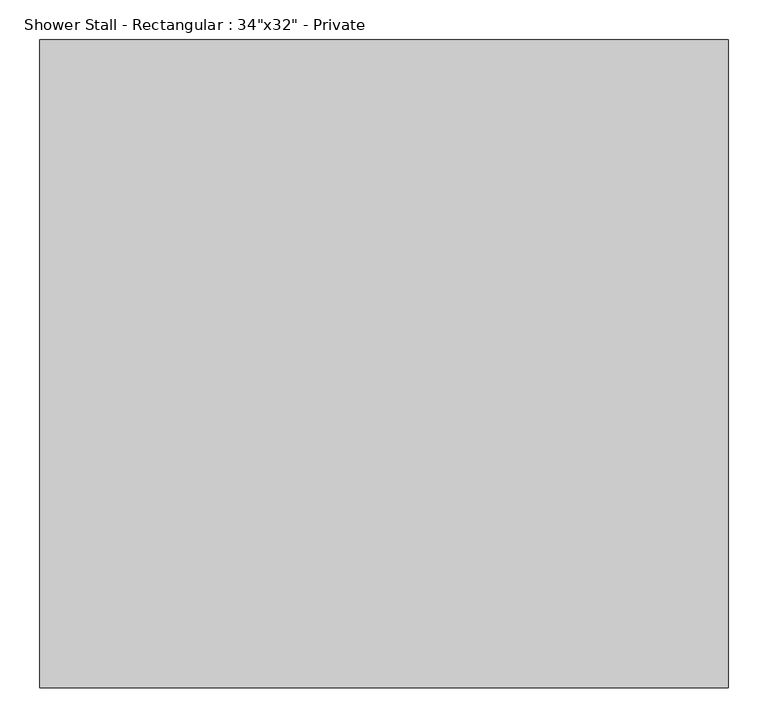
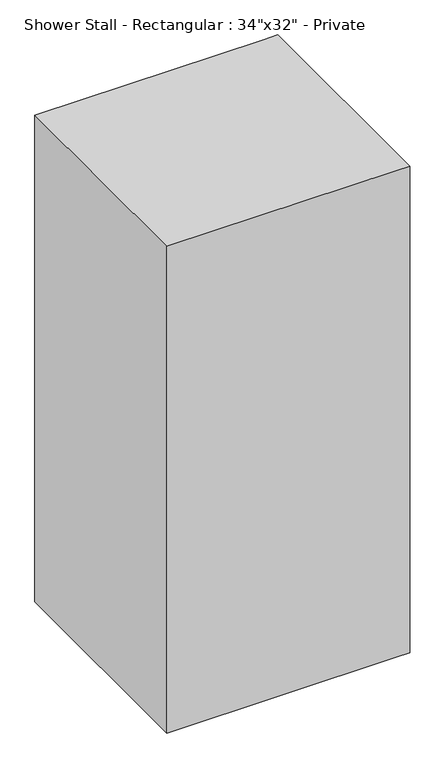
"""IFC4 building model written with IfcOpenShell, lengths in millimetres: flow terminal geometry."""

from ifc_helpers import new_model, si_unit, point, frame, frame_2d, origin, origin_with_axes, place, context, project, spatial, polyline, circle_curve, trimmed, segment, composite_curve, outline, extrude, faceted_brep, source, transform, mapped, element, save


def flow_terminal_b3365f74(model_context):
    return source(origin(), model_context, "Body", "SolidModel", [
        extrude(outline(composite_curve([segment(trimmed(circle_curve(frame_2d((431.8, 406.4)), 31.75), [point((400.05, 406.4))], [point((463.55, 406.4))], False, "CARTESIAN"), True, "CONTINUOUS"), segment(trimmed(circle_curve(frame_2d((431.8, 406.4)), 31.75), [point((463.55, 406.4))], [point((400.05, 406.4))], False, "CARTESIAN"), True, "CONTINUOUS")], self_intersect=False)), origin_with_axes(), (0.0, 0.0, 1.0), 101.6),
        faceted_brep([(0.0, 812.8, 1828.8), (0.0, 0.0, 1828.8), (812.8, 0.0, 1828.8), (863.6, 0.0, 1828.8), (863.6, 812.8, 1828.8), (812.8, 812.8, 1828.8), (0.0, 0.0, 0.0), (0.0, 812.8, 0.0), (812.8, 812.8, 0.0), (863.6, 812.8, 0.0), (863.6, 0.0, 0.0), (812.8, 0.0, 0.0), (863.6, 76.2, 1752.6), (863.6, 736.6, 1752.6), (863.6, 736.6, 101.6), (863.6, 76.2, 101.6), (50.8, 762.0, 1752.6), (50.8, 50.8, 1752.6), (50.8, 50.8, 101.6), (50.8, 762.0, 101.6), (812.8, 762.0, 1752.6), (812.8, 736.6, 1752.6), (812.8, 76.2, 1752.6), (812.8, 50.8, 1752.6), (812.8, 50.8, 101.6), (812.8, 76.2, 101.6), (812.8, 736.6, 101.6), (812.8, 762.0, 101.6)], [[[0, 1, 2, 3, 4, 5]], [[6, 7, 8, 9, 10, 11]], [[4, 9, 8, 7, 0, 5]], [[1, 0, 7, 6]], [[1, 6, 11, 10, 3, 2]], [[9, 4, 3, 10], [12, 13, 14, 15]], [[16, 17, 18, 19]], [[17, 16, 20, 21, 13, 12, 22, 23]], [[18, 17, 23, 24]], [[19, 18, 24, 25, 15, 14, 26, 27]], [[16, 19, 27, 20]], [[26, 21, 20, 27]], [[14, 13, 21, 26]], [[12, 15, 25, 22]], [[22, 25, 24, 23]]]),
        extrude(outline(polyline([(850.9, 736.6), (850.9, 76.2), (819.15, 76.2), (819.15, 82.55), (844.55, 82.55), (844.55, 730.25), (819.15, 730.25), (819.15, 736.6), (850.9, 736.6)])), frame((0.0, 0.0, 762.0), z_axis=(0.0, 0.0, 1.0), x_axis=(1.0, 0.0, 0.0)), (0.0, 0.0, 1.0), 76.2),
        extrude(outline(polyline([(819.15, 736.6), (819.15, 76.2), (812.8, 76.2), (812.8, 736.6), (819.15, 736.6)])), frame((0.0, 0.0, 101.6), z_axis=(0.0, 0.0, 1.0), x_axis=(1.0, 0.0, 0.0)), (0.0, 0.0, 1.0), 1651.0),
    ])


if __name__ == "__main__":
    model = new_model("IFC4")
    model_context = context("Model", 3, world=origin())
    ifc_project = project(units=[si_unit("LENGTHUNIT", "METRE", prefix="MILLI")], contexts=[model_context])
    site = spatial("IfcSite", under=ifc_project)
    building = spatial("IfcBuilding", under=site)
    placement = place(None, origin())
    flow_terminal_shape = flow_terminal_b3365f74(model_context)
    element("IfcFlowTerminal", 1, ObjectType="Shower Stall - Rectangular : 34\"x32\" - Private", at=placement, inside=building, context=model_context, shape_type="MappedRepresentation", body=[
        mapped(flow_terminal_shape, transform((0.0, 0.0, 0.0), x_axis=(1.0, 0.0, 0.0), y_axis=(0.0, 1.0, 0.0), z_axis=(0.0, 0.0, 1.0))),
    ])
    save(model, "model.ifc")
